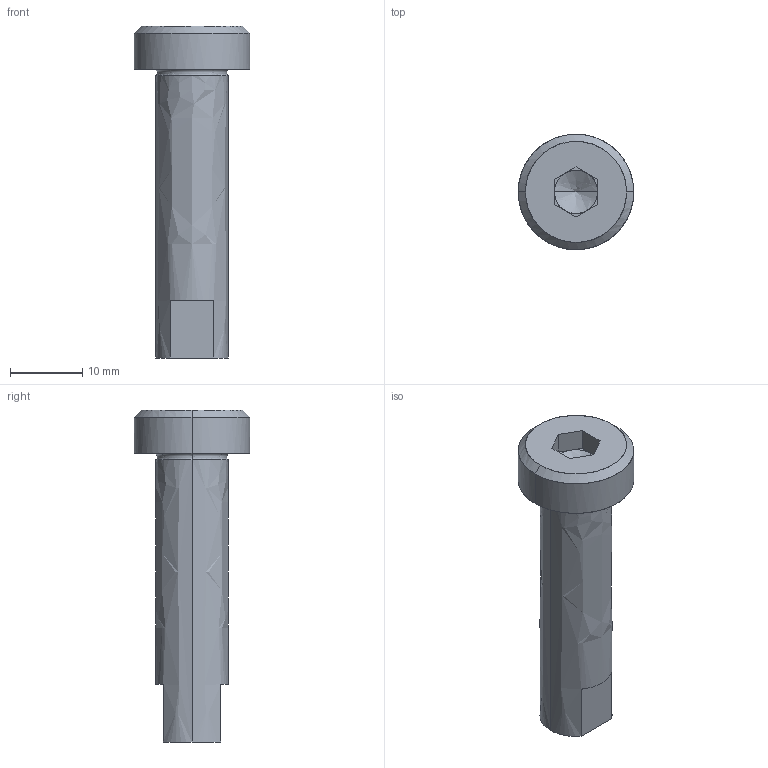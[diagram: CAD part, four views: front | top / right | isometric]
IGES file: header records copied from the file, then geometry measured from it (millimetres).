
Global section: file name: E:\UnigraphicsGraphicData\MISUMI_PRESS-PARTS\IGES\3d_sbtn10-40_00139_r00.igs; native system: NX V5.0; preprocessor: UGS NX IGES V5.0; author: MISUMI; date: 20110105.162505; units: millimetre
Bounding box: 16 x 16 x 46 mm (x, y, z)
Surface area: 2255.4 mm2 (no closed solid volume)
Topology: 0 solids, 0 shells, 38 faces, 202 edges, 198 vertices
Faces by surface type: bspline 38
